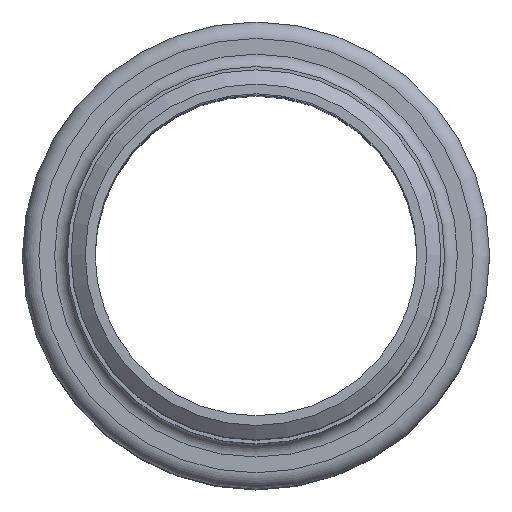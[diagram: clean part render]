
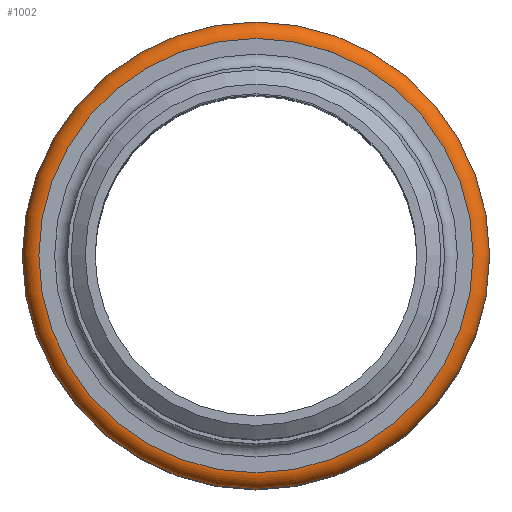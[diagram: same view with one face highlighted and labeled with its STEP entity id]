
A CAD part, top view. The second image highlights one B-rep face of the part: STEP entity #1002.
In plain terms, the highlighted toroidal (fillet/blend) face has major radius 35.414 mm and minor radius 2.686 mm.
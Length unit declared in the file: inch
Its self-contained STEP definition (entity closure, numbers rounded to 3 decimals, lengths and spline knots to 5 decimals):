
#88=TOROIDAL_SURFACE('',#1223,1.39425,0.10575);
#193=FACE_OUTER_BOUND('',#305,.T.);
#305=EDGE_LOOP('',(#834,#835,#836,#837));
#425=CIRCLE('',#1222,1.39425);
#426=CIRCLE('',#1224,1.39425);
#427=CIRCLE('',#1225,0.10575);
#512=VERTEX_POINT('',#1899);
#513=VERTEX_POINT('',#1902);
#623=EDGE_CURVE('',#512,#512,#425,.T.);
#624=EDGE_CURVE('',#513,#513,#426,.T.);
#625=EDGE_CURVE('',#513,#512,#427,.T.);
#834=ORIENTED_EDGE('',*,*,#624,.F.);
#835=ORIENTED_EDGE('',*,*,#625,.T.);
#836=ORIENTED_EDGE('',*,*,#623,.T.);
#837=ORIENTED_EDGE('',*,*,#625,.F.);
#1002=ADVANCED_FACE('',(#193),#88,.T.);
#1222=AXIS2_PLACEMENT_3D('',#1900,#1577,#1578);
#1223=AXIS2_PLACEMENT_3D('',#1901,#1579,#1580);
#1224=AXIS2_PLACEMENT_3D('',#1903,#1581,#1582);
#1225=AXIS2_PLACEMENT_3D('',#1904,#1583,#1584);
#1577=DIRECTION('center_axis',(0.,0.,-1.));
#1578=DIRECTION('ref_axis',(1.,0.,0.));
#1579=DIRECTION('center_axis',(0.,0.,-1.));
#1580=DIRECTION('ref_axis',(-1.,0.,0.));
#1581=DIRECTION('center_axis',(0.,0.,-1.));
#1582=DIRECTION('ref_axis',(1.,0.,0.));
#1583=DIRECTION('center_axis',(0.,-1.,0.));
#1584=DIRECTION('ref_axis',(1.,0.,0.));
#1899=CARTESIAN_POINT('',(1.39425,0.,-0.08175));
#1900=CARTESIAN_POINT('Origin',(0.,0.,-0.08175));
#1901=CARTESIAN_POINT('Origin',(0.,0.,-0.1875));
#1902=CARTESIAN_POINT('',(1.39425,0.,-0.29325));
#1903=CARTESIAN_POINT('Origin',(0.,0.,-0.29325));
#1904=CARTESIAN_POINT('Origin',(1.39425,0.,-0.1875));
